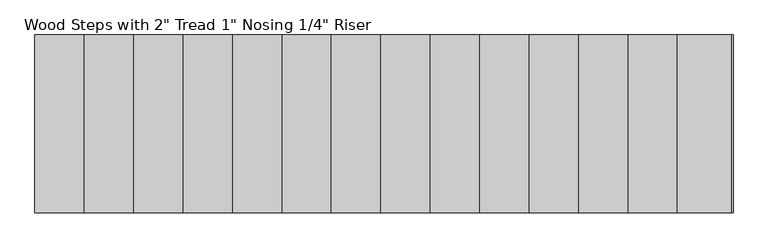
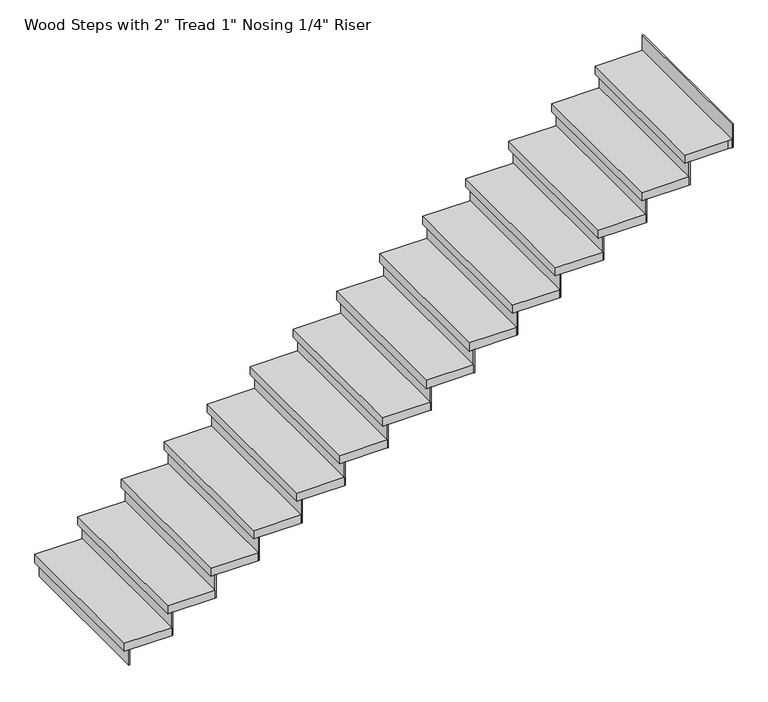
"""IFC4 building model written with IfcOpenShell, lengths in millimetres: stair flight geometry."""

from ifc_helpers import new_model, si_unit, frame, origin, origin_with_axes, place, context, project, spatial, polyline, outline, extrude, source, transform, mapped, element, save


def stair_flight_59090b68(model_context):
    return source(origin(), model_context, "Body", "SweptSolid", [
        extrude(outline(polyline([(-50813.6145607, 14880.2177722), (-50819.9645607, 14880.2177722), (-50819.9645607, 15794.6177722), (-50813.6145607, 15794.6177722), (-50813.6145607, 14880.2177722)])), origin_with_axes(), (0.0, 0.0, 1.0), 94.3428571),
        extrude(outline(polyline([(-50565.9645607, 15794.6177722), (-50565.9645607, 14880.2177722), (-50845.3645607, 14880.2177722), (-50845.3645607, 15794.6177722), (-50565.9645607, 15794.6177722)])), frame((0.0, 0.0, 94.3428571), z_axis=(0.0, 0.0, 1.0), x_axis=(1.0, 0.0, 0.0)), (0.0, 0.0, 1.0), 50.8),
        extrude(outline(polyline([(-50559.6145607, 14880.2177722), (-50565.9645607, 14880.2177722), (-50565.9645607, 15794.6177722), (-50559.6145607, 15794.6177722), (-50559.6145607, 14880.2177722)])), frame((0.0, 0.0, 94.3428571), z_axis=(0.0, 0.0, 1.0), x_axis=(1.0, 0.0, 0.0)), (0.0, 0.0, 1.0), 145.1428571),
        extrude(outline(polyline([(-50311.9645607, 15794.6177722), (-50311.9645607, 14880.2177722), (-50591.3645607, 14880.2177722), (-50591.3645607, 15794.6177722), (-50311.9645607, 15794.6177722)])), frame((0.0, 0.0, 239.4857143), z_axis=(0.0, 0.0, 1.0), x_axis=(1.0, 0.0, 0.0)), (0.0, 0.0, 1.0), 50.8),
        extrude(outline(polyline([(-50305.6145607, 14880.2177722), (-50311.9645607, 14880.2177722), (-50311.9645607, 15794.6177722), (-50305.6145607, 15794.6177722), (-50305.6145607, 14880.2177722)])), frame((0.0, 0.0, 239.4857143), z_axis=(0.0, 0.0, 1.0), x_axis=(1.0, 0.0, 0.0)), (0.0, 0.0, 1.0), 145.1428571),
        extrude(outline(polyline([(-50057.9645607, 15794.6177722), (-50057.9645607, 14880.2177722), (-50337.3645607, 14880.2177722), (-50337.3645607, 15794.6177722), (-50057.9645607, 15794.6177722)])), frame((0.0, 0.0, 384.6285714), z_axis=(0.0, 0.0, 1.0), x_axis=(1.0, 0.0, 0.0)), (0.0, 0.0, 1.0), 50.8),
        extrude(outline(polyline([(-50051.6145607, 14880.2177722), (-50057.9645607, 14880.2177722), (-50057.9645607, 15794.6177722), (-50051.6145607, 15794.6177722), (-50051.6145607, 14880.2177722)])), frame((0.0, 0.0, 384.6285714), z_axis=(0.0, 0.0, 1.0), x_axis=(1.0, 0.0, 0.0)), (0.0, 0.0, 1.0), 145.1428571),
        extrude(outline(polyline([(-49803.9645607, 15794.6177722), (-49803.9645607, 14880.2177722), (-50083.3645607, 14880.2177722), (-50083.3645607, 15794.6177722), (-49803.9645607, 15794.6177722)])), frame((0.0, 0.0, 529.7714286), z_axis=(0.0, 0.0, 1.0), x_axis=(1.0, 0.0, 0.0)), (0.0, 0.0, 1.0), 50.8),
        extrude(outline(polyline([(-49797.6145607, 14880.2177722), (-49803.9645607, 14880.2177722), (-49803.9645607, 15794.6177722), (-49797.6145607, 15794.6177722), (-49797.6145607, 14880.2177722)])), frame((0.0, 0.0, 529.7714286), z_axis=(0.0, 0.0, 1.0), x_axis=(1.0, 0.0, 0.0)), (0.0, 0.0, 1.0), 145.1428571),
        extrude(outline(polyline([(-49549.9645607, 15794.6177722), (-49549.9645607, 14880.2177722), (-49829.3645607, 14880.2177722), (-49829.3645607, 15794.6177722), (-49549.9645607, 15794.6177722)])), frame((0.0, 0.0, 674.9142857), z_axis=(0.0, 0.0, 1.0), x_axis=(1.0, 0.0, 0.0)), (0.0, 0.0, 1.0), 50.8),
        extrude(outline(polyline([(-49543.6145607, 14880.2177722), (-49549.9645607, 14880.2177722), (-49549.9645607, 15794.6177722), (-49543.6145607, 15794.6177722), (-49543.6145607, 14880.2177722)])), frame((0.0, 0.0, 674.9142857), z_axis=(0.0, 0.0, 1.0), x_axis=(1.0, 0.0, 0.0)), (0.0, 0.0, 1.0), 145.1428571),
        extrude(outline(polyline([(-49295.9645607, 15794.6177722), (-49295.9645607, 14880.2177722), (-49575.3645607, 14880.2177722), (-49575.3645607, 15794.6177722), (-49295.9645607, 15794.6177722)])), frame((0.0, 0.0, 820.0571429), z_axis=(0.0, 0.0, 1.0), x_axis=(1.0, 0.0, 0.0)), (0.0, 0.0, 1.0), 50.8),
        extrude(outline(polyline([(-49289.6145607, 14880.2177722), (-49295.9645607, 14880.2177722), (-49295.9645607, 15794.6177722), (-49289.6145607, 15794.6177722), (-49289.6145607, 14880.2177722)])), frame((0.0, 0.0, 820.0571429), z_axis=(0.0, 0.0, 1.0), x_axis=(1.0, 0.0, 0.0)), (0.0, 0.0, 1.0), 145.1428571),
        extrude(outline(polyline([(-49041.9645607, 15794.6177722), (-49041.9645607, 14880.2177722), (-49321.3645607, 14880.2177722), (-49321.3645607, 15794.6177722), (-49041.9645607, 15794.6177722)])), frame((0.0, 0.0, 965.2), z_axis=(0.0, 0.0, 1.0), x_axis=(1.0, 0.0, 0.0)), (0.0, 0.0, 1.0), 50.8),
        extrude(outline(polyline([(-49035.6145607, 14880.2177722), (-49041.9645607, 14880.2177722), (-49041.9645607, 15794.6177722), (-49035.6145607, 15794.6177722), (-49035.6145607, 14880.2177722)])), frame((0.0, 0.0, 965.2), z_axis=(0.0, 0.0, 1.0), x_axis=(1.0, 0.0, 0.0)), (0.0, 0.0, 1.0), 145.1428571),
        extrude(outline(polyline([(-48787.9645607, 15794.6177722), (-48787.9645607, 14880.2177722), (-49067.3645607, 14880.2177722), (-49067.3645607, 15794.6177722), (-48787.9645607, 15794.6177722)])), frame((0.0, 0.0, 1110.3428571), z_axis=(0.0, 0.0, 1.0), x_axis=(1.0, 0.0, 0.0)), (0.0, 0.0, 1.0), 50.8),
        extrude(outline(polyline([(-48781.6145607, 14880.2177722), (-48787.9645607, 14880.2177722), (-48787.9645607, 15794.6177722), (-48781.6145607, 15794.6177722), (-48781.6145607, 14880.2177722)])), frame((0.0, 0.0, 1110.3428571), z_axis=(0.0, 0.0, 1.0), x_axis=(1.0, 0.0, 0.0)), (0.0, 0.0, 1.0), 145.1428571),
        extrude(outline(polyline([(-48533.9645607, 15794.6177722), (-48533.9645607, 14880.2177722), (-48813.3645607, 14880.2177722), (-48813.3645607, 15794.6177722), (-48533.9645607, 15794.6177722)])), frame((0.0, 0.0, 1255.4857143), z_axis=(0.0, 0.0, 1.0), x_axis=(1.0, 0.0, 0.0)), (0.0, 0.0, 1.0), 50.8),
        extrude(outline(polyline([(-48527.6145607, 14880.2177722), (-48533.9645607, 14880.2177722), (-48533.9645607, 15794.6177722), (-48527.6145607, 15794.6177722), (-48527.6145607, 14880.2177722)])), frame((0.0, 0.0, 1255.4857143), z_axis=(0.0, 0.0, 1.0), x_axis=(1.0, 0.0, 0.0)), (0.0, 0.0, 1.0), 145.1428571),
        extrude(outline(polyline([(-48279.9645607, 15794.6177722), (-48279.9645607, 14880.2177722), (-48559.3645607, 14880.2177722), (-48559.3645607, 15794.6177722), (-48279.9645607, 15794.6177722)])), frame((0.0, 0.0, 1400.6285714), z_axis=(0.0, 0.0, 1.0), x_axis=(1.0, 0.0, 0.0)), (0.0, 0.0, 1.0), 50.8),
        extrude(outline(polyline([(-48273.6145607, 14880.2177722), (-48279.9645607, 14880.2177722), (-48279.9645607, 15794.6177722), (-48273.6145607, 15794.6177722), (-48273.6145607, 14880.2177722)])), frame((0.0, 0.0, 1400.6285714), z_axis=(0.0, 0.0, 1.0), x_axis=(1.0, 0.0, 0.0)), (0.0, 0.0, 1.0), 145.1428571),
        extrude(outline(polyline([(-48025.9645607, 15794.6177722), (-48025.9645607, 14880.2177722), (-48305.3645607, 14880.2177722), (-48305.3645607, 15794.6177722), (-48025.9645607, 15794.6177722)])), frame((0.0, 0.0, 1545.7714286), z_axis=(0.0, 0.0, 1.0), x_axis=(1.0, 0.0, 0.0)), (0.0, 0.0, 1.0), 50.8),
        extrude(outline(polyline([(-48019.6145607, 14880.2177722), (-48025.9645607, 14880.2177722), (-48025.9645607, 15794.6177722), (-48019.6145607, 15794.6177722), (-48019.6145607, 14880.2177722)])), frame((0.0, 0.0, 1545.7714286), z_axis=(0.0, 0.0, 1.0), x_axis=(1.0, 0.0, 0.0)), (0.0, 0.0, 1.0), 145.1428571),
        extrude(outline(polyline([(-47771.9645607, 15794.6177722), (-47771.9645607, 14880.2177722), (-48051.3645607, 14880.2177722), (-48051.3645607, 15794.6177722), (-47771.9645607, 15794.6177722)])), frame((0.0, 0.0, 1690.9142857), z_axis=(0.0, 0.0, 1.0), x_axis=(1.0, 0.0, 0.0)), (0.0, 0.0, 1.0), 50.8),
        extrude(outline(polyline([(-47765.6145607, 14880.2177722), (-47771.9645607, 14880.2177722), (-47771.9645607, 15794.6177722), (-47765.6145607, 15794.6177722), (-47765.6145607, 14880.2177722)])), frame((0.0, 0.0, 1690.9142857), z_axis=(0.0, 0.0, 1.0), x_axis=(1.0, 0.0, 0.0)), (0.0, 0.0, 1.0), 145.1428571),
        extrude(outline(polyline([(-47517.9645607, 15794.6177722), (-47517.9645607, 14880.2177722), (-47797.3645607, 14880.2177722), (-47797.3645607, 15794.6177722), (-47517.9645607, 15794.6177722)])), frame((0.0, 0.0, 1836.0571429), z_axis=(0.0, 0.0, 1.0), x_axis=(1.0, 0.0, 0.0)), (0.0, 0.0, 1.0), 50.8),
        extrude(outline(polyline([(-47257.6145607, 14880.2177722), (-47263.9645607, 14880.2177722), (-47263.9645607, 15794.6177722), (-47257.6145607, 15794.6177722), (-47257.6145607, 14880.2177722)])), frame((0.0, 0.0, 1981.2), z_axis=(0.0, 0.0, 1.0), x_axis=(1.0, 0.0, 0.0)), (0.0, 0.0, 1.0), 145.1428571),
        extrude(outline(polyline([(-47511.6145607, 14880.2177722), (-47517.9645607, 14880.2177722), (-47517.9645607, 15794.6177722), (-47511.6145607, 15794.6177722), (-47511.6145607, 14880.2177722)])), frame((0.0, 0.0, 1836.0571429), z_axis=(0.0, 0.0, 1.0), x_axis=(1.0, 0.0, 0.0)), (0.0, 0.0, 1.0), 145.1428571),
        extrude(outline(polyline([(-47263.9645607, 15794.6177722), (-47263.9645607, 14880.2177722), (-47289.3645607, 14880.2177722), (-47543.3645607, 14880.2177722), (-47543.3645607, 15794.6177722), (-47289.3645607, 15794.6177722), (-47263.9645607, 15794.6177722)])), frame((0.0, 0.0, 1981.2), z_axis=(0.0, 0.0, 1.0), x_axis=(1.0, 0.0, 0.0)), (0.0, 0.0, 1.0), 50.8),
    ])


if __name__ == "__main__":
    model = new_model("IFC4")
    model_context = context("Model", 3, world=origin())
    ifc_project = project(units=[si_unit("LENGTHUNIT", "METRE", prefix="MILLI")], contexts=[model_context])
    site = spatial("IfcSite", under=ifc_project)
    building = spatial("IfcBuilding", under=site)
    placement = place(None, origin())
    stair_flight_shape = stair_flight_59090b68(model_context)
    element("IfcStairFlight", 1, ObjectType="Wood Steps with 2\" Tread 1\" Nosing 1/4\" Riser", at=placement, inside=building, context=model_context, shape_type="MappedRepresentation", body=[
        mapped(stair_flight_shape, transform((0.0, 0.0, 0.0), x_axis=(1.0, 0.0, 0.0), y_axis=(0.0, 1.0, 0.0), z_axis=(0.0, 0.0, 1.0))),
    ])
    save(model, "model.ifc")
